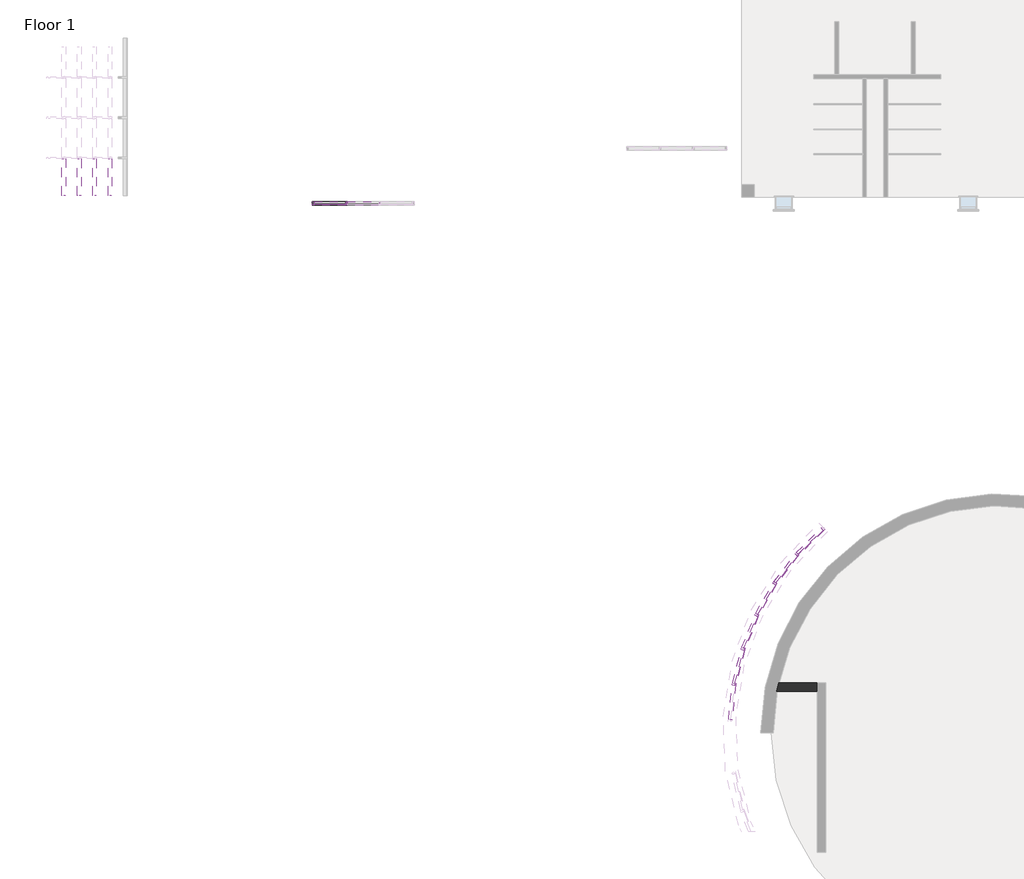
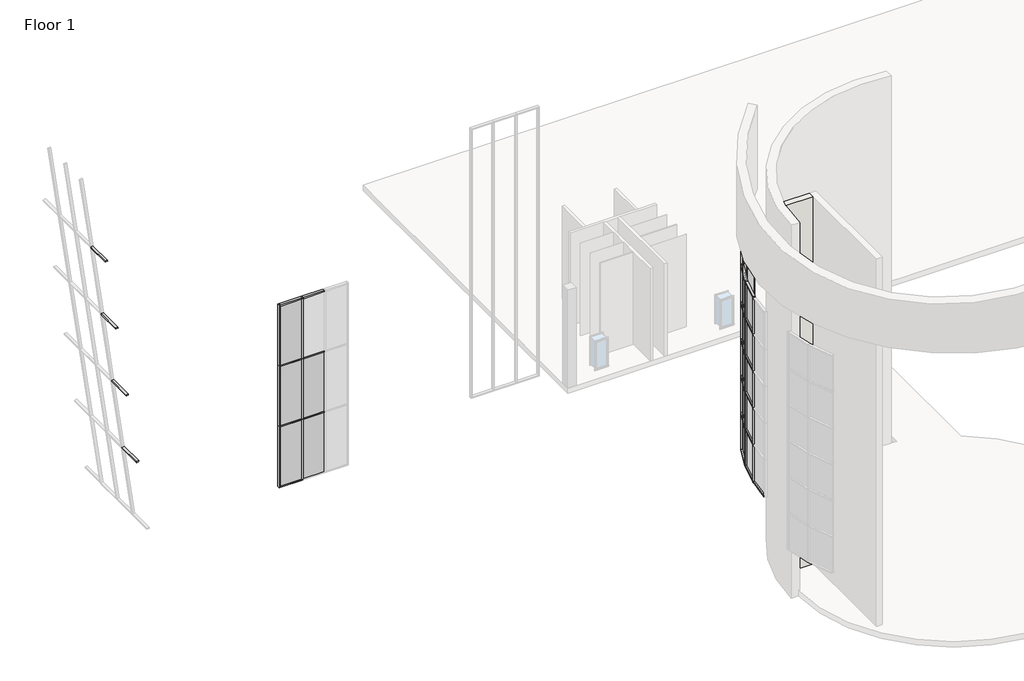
# One storey, part 2 of 11: 78 members, 28 plates, 1 wall.
"""IFC4 building model written with IfcOpenShell, lengths in millimetres."""

from ifc_helpers import new_model, si_unit, point, frame_2d, origin, origin_with_axes, place, context, project, spatial, polyline, circle_curve, trimmed, segment, composite_curve, outline, extrude, transform, mapped, element, save
from components import member_2ae322fc, member_fbb04c12, member_60f38ea1, member_92e61aeb, member_9c235780, member_a50b3385, member_6457a162, member_a397286f, member_08becc7e, member_c609194f, member_b037884b, member_01a4c065, member_349911e8, member_7b18d258, member_74dafc5e, member_9434a11c, system_panel_glazed_5cc509e3, system_panel_glazed_63f175b4, system_panel_glazed_b92d501e

model = new_model("IFC4")

# Units and contexts
model_context = context("Model", 3, world=origin())
ifc_project = project(units=[si_unit("LENGTHUNIT", "METRE", prefix="MILLI")], contexts=[model_context])

# Site, building, storey
site = spatial("IfcSite", under=ifc_project)
building = spatial("IfcBuilding", under=site)
storey = spatial("IfcBuildingStorey", under=building, Name="Floor 1", Elevation=0.0)

# Members
placement = place(None, origin())
member_shape = member_2ae322fc(model_context)
element("IfcMember", 1, ObjectType="Rectangular Mullion1 : 2.5\" x 5\" rectangular", at=placement, inside=storey, context=model_context, shape_type="MappedRepresentation", body=[
    mapped(member_shape, transform((-58.879377, 26659.808796, 5486.4), x_axis=(0.0, 0.0, -1.0), y_axis=(-0.7036879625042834, 0.7105091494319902, 0.0), z_axis=(0.7105091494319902, 0.7036879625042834, 0.0))),
])
member_2_shape = member_fbb04c12(model_context)
element("IfcMember", 2, ObjectType="Rectangular Mullion1 : 2.5\" x 5\" rectangular", at=placement, inside=storey, context=model_context, shape_type="MappedRepresentation", body=[
    mapped(member_2_shape, transform((-946.4907238, 25780.7188917, 15849.6), x_axis=(0.0, 0.0, 1.0), y_axis=(-0.7036879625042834, 0.7105091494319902, 0.0), z_axis=(-0.7105091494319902, -0.7036879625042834, 0.0))),
])
member_3_shape = member_60f38ea1(model_context)
element("IfcMember", 3, ObjectType="Rectangular Mullion1 : 2.5\" x 5\" rectangular", at=placement, inside=storey, context=model_context, shape_type="MappedRepresentation", body=[
    mapped(member_3_shape, transform((-1747.7971728, 24741.2529315, 15849.6), x_axis=(0.0, 0.0, 1.0), y_axis=(-0.7940009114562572, 0.607916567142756, 0.0), z_axis=(-0.6079165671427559, -0.7940009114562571, 0.0))),
])
element("IfcMember", 4, ObjectType="Rectangular Mullion1 : 2.5\" x 5\" rectangular", at=placement, inside=storey, context=model_context, shape_type="MappedRepresentation", body=[
    mapped(member_3_shape, transform((-2401.6981744, 23603.2665357, 15849.6), x_axis=(0.0, 0.0, 1.0), y_axis=(-0.8686708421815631, 0.49538971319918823, 0.0), z_axis=(-0.4953897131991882, -0.868670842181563, 0.0))),
])
element("IfcMember", 5, ObjectType="Rectangular Mullion1 : 2.5\" x 5\" rectangular", at=placement, inside=storey, context=model_context, shape_type="MappedRepresentation", body=[
    mapped(member_3_shape, transform((-2896.304556, 22387.5510738, 15849.6), x_axis=(0.0, 0.0, 1.0), y_axis=(-0.9274980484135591, 0.37382799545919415, 0.0), z_axis=(-0.3738279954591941, -0.927498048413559, 0.0))),
])
element("IfcMember", 6, ObjectType="Rectangular Mullion1 : 2.5\" x 5\" rectangular", at=placement, inside=storey, context=model_context, shape_type="MappedRepresentation", body=[
    mapped(member_3_shape, transform((-3222.5957401, 21116.2786325, 15849.6), x_axis=(0.0, 0.0, 1.0), y_axis=(-0.9694096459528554, 0.24544844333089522, 0.0), z_axis=(-0.2454484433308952, -0.9694096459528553, 0.0))),
])
element("IfcMember", 7, ObjectType="Rectangular Mullion1 : 2.5\" x 5\" rectangular", at=placement, inside=storey, context=model_context, shape_type="MappedRepresentation", body=[
    mapped(member_3_shape, transform((-988.3507403, 25733.16727, 5486.4), x_axis=(0.0, 0.0, -1.0), y_axis=(-0.7940009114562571, 0.6079165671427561, 0.0), z_axis=(0.6079165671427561, 0.7940009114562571, 0.0))),
])
element("IfcMember", 8, ObjectType="Rectangular Mullion1 : 2.5\" x 5\" rectangular", at=placement, inside=storey, context=model_context, shape_type="MappedRepresentation", body=[
    mapped(member_3_shape, transform((-1782.8271472, 24688.4631033, 5486.4), x_axis=(0.0, 0.0, -1.0), y_axis=(-0.8686708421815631, 0.4953897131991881, 0.0), z_axis=(0.4953897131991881, 0.8686708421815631, 0.0))),
])
element("IfcMember", 9, ObjectType="Rectangular Mullion1 : 2.5\" x 5\" rectangular", at=placement, inside=storey, context=model_context, shape_type="MappedRepresentation", body=[
    mapped(member_3_shape, transform((-2429.2958366, 23546.2381734, 5486.4), x_axis=(0.0, 0.0, -1.0), y_axis=(-0.9274980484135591, 0.37382799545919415, 0.0), z_axis=(0.37382799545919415, 0.9274980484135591, 0.0))),
])
element("IfcMember", 10, ObjectType="Rectangular Mullion1 : 2.5\" x 5\" rectangular", at=placement, inside=storey, context=model_context, shape_type="MappedRepresentation", body=[
    mapped(member_3_shape, transform((-2915.9665829, 22327.3242545, 5486.4), x_axis=(0.0, 0.0, -1.0), y_axis=(-0.9694096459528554, 0.24544844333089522, 0.0), z_axis=(0.2454484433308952, 0.9694096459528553, 0.0))),
])
member_4_shape = member_92e61aeb(model_context)
element("IfcMember", 11, ObjectType="Rectangular Mullion1 : 2.5\" x 5\" rectangular", at=placement, inside=storey, context=model_context, shape_type="MappedRepresentation", body=[
    mapped(member_4_shape, transform((-946.4907238, 25780.7188917, 7578.09), x_axis=(0.0, 0.0, 1.0), y_axis=(-0.7036879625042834, 0.7105091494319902, 0.0), z_axis=(-0.7105091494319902, -0.7036879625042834, 0.0))),
])
member_5_shape = member_9c235780(model_context)
element("IfcMember", 12, ObjectType="Rectangular Mullion1 : 2.5\" x 5\" rectangular", at=placement, inside=storey, context=model_context, shape_type="MappedRepresentation", body=[
    mapped(member_5_shape, transform((-1747.7971728, 24741.2529315, 7578.09), x_axis=(0.0, 0.0, 1.0), y_axis=(-0.7940009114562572, 0.607916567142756, 0.0), z_axis=(-0.607916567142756, -0.7940009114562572, 0.0))),
])
element("IfcMember", 13, ObjectType="Rectangular Mullion1 : 2.5\" x 5\" rectangular", at=placement, inside=storey, context=model_context, shape_type="MappedRepresentation", body=[
    mapped(member_5_shape, transform((-2401.6981744, 23603.2665357, 7578.09), x_axis=(0.0, 0.0, 1.0), y_axis=(-0.8686708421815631, 0.4953897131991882, 0.0), z_axis=(-0.4953897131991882, -0.8686708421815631, 0.0))),
])
element("IfcMember", 14, ObjectType="Rectangular Mullion1 : 2.5\" x 5\" rectangular", at=placement, inside=storey, context=model_context, shape_type="MappedRepresentation", body=[
    mapped(member_5_shape, transform((-2896.304556, 22387.5510738, 7578.09), x_axis=(0.0, 0.0, 1.0), y_axis=(-0.9274980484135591, 0.37382799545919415, 0.0), z_axis=(-0.37382799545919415, -0.9274980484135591, 0.0))),
])
element("IfcMember", 15, ObjectType="Rectangular Mullion1 : 2.5\" x 5\" rectangular", at=placement, inside=storey, context=model_context, shape_type="MappedRepresentation", body=[
    mapped(member_5_shape, transform((-3222.5957401, 21116.2786325, 7578.09), x_axis=(0.0, 0.0, 1.0), y_axis=(-0.9694096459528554, 0.24544844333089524, 0.0), z_axis=(-0.24544844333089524, -0.9694096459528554, 0.0))),
])
element("IfcMember", 16, ObjectType="Rectangular Mullion1 : 2.5\" x 5\" rectangular", at=placement, inside=storey, context=model_context, shape_type="MappedRepresentation", body=[
    mapped(member_4_shape, transform((-946.4907238, 25780.7188917, 9638.03), x_axis=(0.0, 0.0, 1.0), y_axis=(-0.7036879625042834, 0.7105091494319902, 0.0), z_axis=(-0.7105091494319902, -0.7036879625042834, 0.0))),
])
element("IfcMember", 17, ObjectType="Rectangular Mullion1 : 2.5\" x 5\" rectangular", at=placement, inside=storey, context=model_context, shape_type="MappedRepresentation", body=[
    mapped(member_4_shape, transform((-946.4907238, 25780.7188917, 11697.97), x_axis=(0.0, 0.0, 1.0), y_axis=(-0.7036879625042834, 0.7105091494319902, 0.0), z_axis=(-0.7105091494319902, -0.7036879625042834, 0.0))),
])
element("IfcMember", 18, ObjectType="Rectangular Mullion1 : 2.5\" x 5\" rectangular", at=placement, inside=storey, context=model_context, shape_type="MappedRepresentation", body=[
    mapped(member_5_shape, transform((-1747.7971728, 24741.2529315, 9638.03), x_axis=(0.0, 0.0, 1.0), y_axis=(-0.7940009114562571, 0.6079165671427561, 0.0), z_axis=(-0.6079165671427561, -0.7940009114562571, 0.0))),
])
element("IfcMember", 19, ObjectType="Rectangular Mullion1 : 2.5\" x 5\" rectangular", at=placement, inside=storey, context=model_context, shape_type="MappedRepresentation", body=[
    mapped(member_5_shape, transform((-2401.6981744, 23603.2665357, 9638.03), x_axis=(0.0, 0.0, 1.0), y_axis=(-0.8686708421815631, 0.4953897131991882, 0.0), z_axis=(-0.4953897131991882, -0.8686708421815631, 0.0))),
])
element("IfcMember", 20, ObjectType="Rectangular Mullion1 : 2.5\" x 5\" rectangular", at=placement, inside=storey, context=model_context, shape_type="MappedRepresentation", body=[
    mapped(member_5_shape, transform((-2896.304556, 22387.5510738, 9638.03), x_axis=(0.0, 0.0, 1.0), y_axis=(-0.9274980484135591, 0.3738279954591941, 0.0), z_axis=(-0.3738279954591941, -0.9274980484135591, 0.0))),
])
element("IfcMember", 21, ObjectType="Rectangular Mullion1 : 2.5\" x 5\" rectangular", at=placement, inside=storey, context=model_context, shape_type="MappedRepresentation", body=[
    mapped(member_5_shape, transform((-3222.5957401, 21116.2786325, 9638.03), x_axis=(0.0, 0.0, 1.0), y_axis=(-0.9694096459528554, 0.24544844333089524, 0.0), z_axis=(-0.24544844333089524, -0.9694096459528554, 0.0))),
])
element("IfcMember", 22, ObjectType="Rectangular Mullion1 : 2.5\" x 5\" rectangular", at=placement, inside=storey, context=model_context, shape_type="MappedRepresentation", body=[
    mapped(member_5_shape, transform((-1747.7971728, 24741.2529315, 11697.97), x_axis=(0.0, 0.0, 1.0), y_axis=(-0.7940009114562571, 0.6079165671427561, 0.0), z_axis=(-0.6079165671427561, -0.7940009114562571, 0.0))),
])
element("IfcMember", 23, ObjectType="Rectangular Mullion1 : 2.5\" x 5\" rectangular", at=placement, inside=storey, context=model_context, shape_type="MappedRepresentation", body=[
    mapped(member_5_shape, transform((-2401.6981744, 23603.2665357, 11697.97), x_axis=(0.0, 0.0, 1.0), y_axis=(-0.8686708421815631, 0.4953897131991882, 0.0), z_axis=(-0.4953897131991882, -0.8686708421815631, 0.0))),
])
element("IfcMember", 24, ObjectType="Rectangular Mullion1 : 2.5\" x 5\" rectangular", at=placement, inside=storey, context=model_context, shape_type="MappedRepresentation", body=[
    mapped(member_5_shape, transform((-2896.304556, 22387.5510738, 11697.97), x_axis=(0.0, 0.0, 1.0), y_axis=(-0.9274980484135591, 0.3738279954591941, 0.0), z_axis=(-0.3738279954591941, -0.9274980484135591, 0.0))),
])
element("IfcMember", 25, ObjectType="Rectangular Mullion1 : 2.5\" x 5\" rectangular", at=placement, inside=storey, context=model_context, shape_type="MappedRepresentation", body=[
    mapped(member_5_shape, transform((-3222.5957401, 21116.2786325, 11697.97), x_axis=(0.0, 0.0, 1.0), y_axis=(-0.9694096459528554, 0.24544844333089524, 0.0), z_axis=(-0.24544844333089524, -0.9694096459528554, 0.0))),
])
element("IfcMember", 26, ObjectType="Rectangular Mullion1 : 2.5\" x 5\" rectangular", at=placement, inside=storey, context=model_context, shape_type="MappedRepresentation", body=[
    mapped(member_4_shape, transform((-946.4907238, 25780.7188917, 13757.91), x_axis=(0.0, 0.0, 1.0), y_axis=(-0.7036879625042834, 0.7105091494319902, 0.0), z_axis=(-0.7105091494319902, -0.7036879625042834, 0.0))),
])
element("IfcMember", 27, ObjectType="Rectangular Mullion1 : 2.5\" x 5\" rectangular", at=placement, inside=storey, context=model_context, shape_type="MappedRepresentation", body=[
    mapped(member_5_shape, transform((-1747.7971728, 24741.2529315, 13757.91), x_axis=(0.0, 0.0, 1.0), y_axis=(-0.7940009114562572, 0.607916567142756, 0.0), z_axis=(-0.607916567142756, -0.7940009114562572, 0.0))),
])
element("IfcMember", 28, ObjectType="Rectangular Mullion1 : 2.5\" x 5\" rectangular", at=placement, inside=storey, context=model_context, shape_type="MappedRepresentation", body=[
    mapped(member_5_shape, transform((-2401.6981744, 23603.2665357, 13757.91), x_axis=(0.0, 0.0, 1.0), y_axis=(-0.8686708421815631, 0.4953897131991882, 0.0), z_axis=(-0.4953897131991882, -0.8686708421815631, 0.0))),
])
element("IfcMember", 29, ObjectType="Rectangular Mullion1 : 2.5\" x 5\" rectangular", at=placement, inside=storey, context=model_context, shape_type="MappedRepresentation", body=[
    mapped(member_5_shape, transform((-2896.304556, 22387.5510738, 13757.91), x_axis=(0.0, 0.0, 1.0), y_axis=(-0.9274980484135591, 0.3738279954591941, 0.0), z_axis=(-0.3738279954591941, -0.9274980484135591, 0.0))),
])
element("IfcMember", 30, ObjectType="Rectangular Mullion1 : 2.5\" x 5\" rectangular", at=placement, inside=storey, context=model_context, shape_type="MappedRepresentation", body=[
    mapped(member_5_shape, transform((-3222.5957401, 21116.2786325, 13757.91), x_axis=(0.0, 0.0, 1.0), y_axis=(-0.9694096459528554, 0.24544844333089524, 0.0), z_axis=(-0.24544844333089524, -0.9694096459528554, 0.0))),
])
member_6_shape = member_a50b3385(model_context)
element("IfcMember", 31, ObjectType="Rectangular Mullion1 : 2.5\" x 5\" rectangular", at=placement, inside=storey, context=model_context, shape_type="MappedRepresentation", body=[
    mapped(member_6_shape, transform((-969.0493893, 25758.3767989, 5486.4), x_axis=(-0.6601431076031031, -0.7511398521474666, 0.0), y_axis=(-0.7511398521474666, 0.6601431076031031, 0.0), z_axis=(0.0, 0.0, -1.0))),
])
element("IfcMember", 32, ObjectType="Rectangular Mullion1 : 2.5\" x 5\" rectangular", at=placement, inside=storey, context=model_context, shape_type="MappedRepresentation", body=[
    mapped(member_6_shape, transform((-1767.0985238, 24716.0434025, 5486.4), x_axis=(-0.5529150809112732, -0.8332376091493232, 0.0), y_axis=(-0.8332376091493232, 0.5529150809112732, 0.0), z_axis=(0.0, 0.0, -1.0))),
])
element("IfcMember", 33, ObjectType="Rectangular Mullion1 : 2.5\" x 5\" rectangular", at=placement, inside=storey, context=model_context, shape_type="MappedRepresentation", body=[
    mapped(member_6_shape, transform((-2417.4267977, 23575.6862364, 5486.4), x_axis=(-0.43560304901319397, -0.9001388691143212, 0.0), y_axis=(-0.9001388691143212, 0.43560304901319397, 0.0), z_axis=(0.0, 0.0, -1.0))),
])
element("IfcMember", 34, ObjectType="Rectangular Mullion1 : 2.5\" x 5\" rectangular", at=placement, inside=storey, context=model_context, shape_type="MappedRepresentation", body=[
    mapped(member_6_shape, transform((-2908.1735948, 22358.1030108, 5486.4), x_axis=(-0.3103465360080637, -0.9506234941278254, 0.0), y_axis=(-0.9506234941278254, 0.3103465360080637, 0.0), z_axis=(0.0, 0.0, -1.0))),
])
element("IfcMember", 35, ObjectType="Rectangular Mullion1 : 2.5\" x 5\" rectangular", at=placement, inside=storey, context=model_context, shape_type="MappedRepresentation", body=[
    mapped(member_6_shape, transform((-3230.3887282, 21085.4998763, 5486.4), x_axis=(-0.17942995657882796, -0.9837707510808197, 0.0), y_axis=(-0.9837707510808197, 0.17942995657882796, 0.0), z_axis=(0.0, 0.0, -1.0))),
])
member_7_shape = member_6457a162(model_context)
element("IfcMember", 36, ObjectType="Rectangular Mullion1 : 2.5\" x 5\" rectangular", at=placement, inside=storey, context=model_context, shape_type="MappedRepresentation", body=[
    mapped(member_7_shape, transform((-969.0493893, 25758.3767989, 7578.09), x_axis=(-0.6601431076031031, -0.7511398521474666, 0.0), y_axis=(-0.7511398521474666, 0.6601431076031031, 0.0), z_axis=(0.0, 0.0, -1.0))),
])
element("IfcMember", 37, ObjectType="Rectangular Mullion1 : 2.5\" x 5\" rectangular", at=placement, inside=storey, context=model_context, shape_type="MappedRepresentation", body=[
    mapped(member_7_shape, transform((-1767.0985238, 24716.0434025, 7578.09), x_axis=(-0.5529150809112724, -0.8332376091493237, 0.0), y_axis=(-0.8332376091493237, 0.5529150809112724, 0.0), z_axis=(0.0, 0.0, -1.0))),
])
element("IfcMember", 38, ObjectType="Rectangular Mullion1 : 2.5\" x 5\" rectangular", at=placement, inside=storey, context=model_context, shape_type="MappedRepresentation", body=[
    mapped(member_7_shape, transform((-2417.4267977, 23575.6862364, 7578.09), x_axis=(-0.43560304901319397, -0.9001388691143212, 0.0), y_axis=(-0.9001388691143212, 0.43560304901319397, 0.0), z_axis=(0.0, 0.0, -1.0))),
])
element("IfcMember", 39, ObjectType="Rectangular Mullion1 : 2.5\" x 5\" rectangular", at=placement, inside=storey, context=model_context, shape_type="MappedRepresentation", body=[
    mapped(member_7_shape, transform((-2908.1735948, 22358.1030108, 7578.09), x_axis=(-0.31034653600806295, -0.9506234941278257, 0.0), y_axis=(-0.9506234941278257, 0.31034653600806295, 0.0), z_axis=(0.0, 0.0, -1.0))),
])
element("IfcMember", 40, ObjectType="Rectangular Mullion1 : 2.5\" x 5\" rectangular", at=placement, inside=storey, context=model_context, shape_type="MappedRepresentation", body=[
    mapped(member_7_shape, transform((-969.0493893, 25758.3767989, 9638.03), x_axis=(-0.6601431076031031, -0.7511398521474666, 0.0), y_axis=(-0.7511398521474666, 0.6601431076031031, 0.0), z_axis=(0.0, 0.0, -1.0))),
])
element("IfcMember", 41, ObjectType="Rectangular Mullion1 : 2.5\" x 5\" rectangular", at=placement, inside=storey, context=model_context, shape_type="MappedRepresentation", body=[
    mapped(member_7_shape, transform((-1767.0985238, 24716.0434025, 9638.03), x_axis=(-0.5529150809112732, -0.8332376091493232, 0.0), y_axis=(-0.8332376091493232, 0.5529150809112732, 0.0), z_axis=(0.0, 0.0, -1.0))),
])
element("IfcMember", 42, ObjectType="Rectangular Mullion1 : 2.5\" x 5\" rectangular", at=placement, inside=storey, context=model_context, shape_type="MappedRepresentation", body=[
    mapped(member_7_shape, transform((-2417.4267977, 23575.6862364, 9638.03), x_axis=(-0.4356030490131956, -0.9001388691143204, 0.0), y_axis=(-0.9001388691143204, 0.4356030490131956, 0.0), z_axis=(0.0, 0.0, -1.0))),
])
element("IfcMember", 43, ObjectType="Rectangular Mullion1 : 2.5\" x 5\" rectangular", at=placement, inside=storey, context=model_context, shape_type="MappedRepresentation", body=[
    mapped(member_7_shape, transform((-2908.1735948, 22358.1030108, 9638.03), x_axis=(-0.31034653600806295, -0.9506234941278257, 0.0), y_axis=(-0.9506234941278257, 0.31034653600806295, 0.0), z_axis=(0.0, 0.0, -1.0))),
])
element("IfcMember", 44, ObjectType="Rectangular Mullion1 : 2.5\" x 5\" rectangular", at=placement, inside=storey, context=model_context, shape_type="MappedRepresentation", body=[
    mapped(member_7_shape, transform((-969.0493893, 25758.3767989, 11697.97), x_axis=(-0.6601431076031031, -0.7511398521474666, 0.0), y_axis=(-0.7511398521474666, 0.6601431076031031, 0.0), z_axis=(0.0, 0.0, -1.0))),
])
element("IfcMember", 45, ObjectType="Rectangular Mullion1 : 2.5\" x 5\" rectangular", at=placement, inside=storey, context=model_context, shape_type="MappedRepresentation", body=[
    mapped(member_7_shape, transform((-1767.0985238, 24716.0434025, 11697.97), x_axis=(-0.5529150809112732, -0.8332376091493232, 0.0), y_axis=(-0.8332376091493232, 0.5529150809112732, 0.0), z_axis=(0.0, 0.0, -1.0))),
])
element("IfcMember", 46, ObjectType="Rectangular Mullion1 : 2.5\" x 5\" rectangular", at=placement, inside=storey, context=model_context, shape_type="MappedRepresentation", body=[
    mapped(member_7_shape, transform((-2417.4267977, 23575.6862364, 11697.97), x_axis=(-0.4356030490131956, -0.9001388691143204, 0.0), y_axis=(-0.9001388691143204, 0.4356030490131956, 0.0), z_axis=(0.0, 0.0, -1.0))),
])
element("IfcMember", 47, ObjectType="Rectangular Mullion1 : 2.5\" x 5\" rectangular", at=placement, inside=storey, context=model_context, shape_type="MappedRepresentation", body=[
    mapped(member_7_shape, transform((-2908.1735948, 22358.1030108, 11697.97), x_axis=(-0.31034653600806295, -0.9506234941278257, 0.0), y_axis=(-0.9506234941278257, 0.31034653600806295, 0.0), z_axis=(0.0, 0.0, -1.0))),
])
element("IfcMember", 48, ObjectType="Rectangular Mullion1 : 2.5\" x 5\" rectangular", at=placement, inside=storey, context=model_context, shape_type="MappedRepresentation", body=[
    mapped(member_7_shape, transform((-3230.3887282, 21085.4998763, 7578.09), x_axis=(-0.17942995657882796, -0.9837707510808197, 0.0), y_axis=(-0.9837707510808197, 0.17942995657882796, 0.0), z_axis=(0.0, 0.0, -1.0))),
])
element("IfcMember", 49, ObjectType="Rectangular Mullion1 : 2.5\" x 5\" rectangular", at=placement, inside=storey, context=model_context, shape_type="MappedRepresentation", body=[
    mapped(member_7_shape, transform((-3230.3887282, 21085.4998763, 9638.03), x_axis=(-0.1794299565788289, -0.9837707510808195, 0.0), y_axis=(-0.9837707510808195, 0.1794299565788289, 0.0), z_axis=(0.0, 0.0, -1.0))),
])
element("IfcMember", 50, ObjectType="Rectangular Mullion1 : 2.5\" x 5\" rectangular", at=placement, inside=storey, context=model_context, shape_type="MappedRepresentation", body=[
    mapped(member_7_shape, transform((-3230.3887282, 21085.4998763, 11697.97), x_axis=(-0.1794299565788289, -0.9837707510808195, 0.0), y_axis=(-0.9837707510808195, 0.1794299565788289, 0.0), z_axis=(0.0, 0.0, -1.0))),
])
element("IfcMember", 51, ObjectType="Rectangular Mullion1 : 2.5\" x 5\" rectangular", at=placement, inside=storey, context=model_context, shape_type="MappedRepresentation", body=[
    mapped(member_6_shape, transform((-969.0493893, 25758.3767989, 13757.91), x_axis=(-0.6601431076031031, -0.7511398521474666, 0.0), y_axis=(-0.7511398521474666, 0.6601431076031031, 0.0), z_axis=(0.0, 0.0, -1.0))),
])
element("IfcMember", 52, ObjectType="Rectangular Mullion1 : 2.5\" x 5\" rectangular", at=placement, inside=storey, context=model_context, shape_type="MappedRepresentation", body=[
    mapped(member_6_shape, transform((-1767.0985238, 24716.0434025, 13757.91), x_axis=(-0.5529150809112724, -0.8332376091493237, 0.0), y_axis=(-0.8332376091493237, 0.5529150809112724, 0.0), z_axis=(0.0, 0.0, -1.0))),
])
element("IfcMember", 53, ObjectType="Rectangular Mullion1 : 2.5\" x 5\" rectangular", at=placement, inside=storey, context=model_context, shape_type="MappedRepresentation", body=[
    mapped(member_6_shape, transform((-2417.4267977, 23575.6862364, 13757.91), x_axis=(-0.4356030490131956, -0.9001388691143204, 0.0), y_axis=(-0.9001388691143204, 0.4356030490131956, 0.0), z_axis=(0.0, 0.0, -1.0))),
])
element("IfcMember", 54, ObjectType="Rectangular Mullion1 : 2.5\" x 5\" rectangular", at=placement, inside=storey, context=model_context, shape_type="MappedRepresentation", body=[
    mapped(member_6_shape, transform((-2908.1735948, 22358.1030108, 13757.91), x_axis=(-0.31034653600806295, -0.9506234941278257, 0.0), y_axis=(-0.9506234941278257, 0.31034653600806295, 0.0), z_axis=(0.0, 0.0, -1.0))),
])
element("IfcMember", 55, ObjectType="Rectangular Mullion1 : 2.5\" x 5\" rectangular", at=placement, inside=storey, context=model_context, shape_type="MappedRepresentation", body=[
    mapped(member_6_shape, transform((-3230.3887282, 21085.4998763, 13757.91), x_axis=(-0.1794299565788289, -0.9837707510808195, 0.0), y_axis=(-0.9837707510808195, 0.1794299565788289, 0.0), z_axis=(0.0, 0.0, -1.0))),
])
element("IfcMember", 56, ObjectType="Rectangular Mullion1 : 2.5\" x 5\" rectangular", at=placement, inside=storey, context=model_context, shape_type="MappedRepresentation", body=[
    mapped(member_2_shape, transform((-3233.9118907, 21053.9459569, 5486.4), x_axis=(0.0, 0.0, -1.0), y_axis=(-0.9938242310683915, 0.11096575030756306, 0.0), z_axis=(0.11096575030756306, 0.9938242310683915, 0.0))),
])
member_8_shape = member_a397286f(model_context)
element("IfcMember", 57, ObjectType="Rectangular Mullion1 : 2.5\" x 5\" rectangular", at=placement, inside=storey, context=model_context, shape_type="MappedRepresentation", body=[
    mapped(member_8_shape, transform((-13.762046, 26704.4929816, 15849.6), x_axis=(0.7105091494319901, 0.7036879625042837, 0.0), y_axis=(-0.7036879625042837, 0.7105091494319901, 0.0), z_axis=(0.0, 0.0, 1.0))),
])
element("IfcMember", 58, ObjectType="Rectangular Mullion1 : 2.5\" x 5\" rectangular", at=placement, inside=storey, context=model_context, shape_type="MappedRepresentation", body=[
    mapped(member_8_shape, transform((-13.762046, 26704.4929816, 7578.09), x_axis=(0.7105091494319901, 0.7036879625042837, 0.0), y_axis=(-0.7036879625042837, 0.7105091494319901, 0.0), z_axis=(0.0, 0.0, 1.0))),
])
member_9_shape = member_08becc7e(model_context)
element("IfcMember", 59, ObjectType="Rectangular Mullion1 : 2.5\" x 5\" rectangular", at=placement, inside=storey, context=model_context, shape_type="MappedRepresentation", body=[
    mapped(member_9_shape, transform((-13.762046, 26704.4929816, 9638.03), x_axis=(0.7105091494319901, 0.7036879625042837, 0.0), y_axis=(-0.7036879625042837, 0.7105091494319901, 0.0), z_axis=(0.0, 0.0, 1.0))),
])
element("IfcMember", 60, ObjectType="Rectangular Mullion1 : 2.5\" x 5\" rectangular", at=placement, inside=storey, context=model_context, shape_type="MappedRepresentation", body=[
    mapped(member_9_shape, transform((-13.762046, 26704.4929816, 11697.97), x_axis=(0.7105091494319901, 0.7036879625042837, 0.0), y_axis=(-0.7036879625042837, 0.7105091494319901, 0.0), z_axis=(0.0, 0.0, 1.0))),
])
element("IfcMember", 61, ObjectType="Rectangular Mullion1 : 2.5\" x 5\" rectangular", at=placement, inside=storey, context=model_context, shape_type="MappedRepresentation", body=[
    mapped(member_9_shape, transform((-13.762046, 26704.4929816, 13757.91), x_axis=(0.7105091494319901, 0.7036879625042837, 0.0), y_axis=(-0.7036879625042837, 0.7105091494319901, 0.0), z_axis=(0.0, 0.0, 1.0))),
])
member_10_shape = member_c609194f(model_context)
element("IfcMember", 62, ObjectType="Rectangular Mullion1 : 2.5\" x 5\" rectangular", at=placement, inside=storey, context=model_context, shape_type="MappedRepresentation", body=[
    mapped(member_10_shape, transform((-25693.3790742, 38681.824389, 3810.4039622), x_axis=(-0.13917310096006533, 0.0, 0.9902680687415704), y_axis=(-0.9902680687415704, 0.0, -0.13917310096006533), z_axis=(0.0, -1.0, 0.0))),
])
element("IfcMember", 63, ObjectType="Rectangular Mullion1 : 2.5\" x 5\" rectangular", at=placement, inside=storey, context=model_context, shape_type="MappedRepresentation", body=[
    mapped(member_10_shape, transform((-26246.1445106, 38681.824389, 7743.5344115), x_axis=(-0.13917310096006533, 0.0, 0.9902680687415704), y_axis=(-0.9902680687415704, 0.0, -0.13917310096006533), z_axis=(0.0, -1.0, 0.0))),
])
element("IfcMember", 64, ObjectType="Rectangular Mullion1 : 2.5\" x 5\" rectangular", at=placement, inside=storey, context=model_context, shape_type="MappedRepresentation", body=[
    mapped(member_10_shape, transform((-26798.9099469, 38681.824389, 11676.6648609), x_axis=(-0.13917310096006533, 0.0, 0.9902680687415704), y_axis=(-0.9902680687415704, 0.0, -0.13917310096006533), z_axis=(0.0, -1.0, 0.0))),
])
element("IfcMember", 65, ObjectType="Rectangular Mullion1 : 2.5\" x 5\" rectangular", at=placement, inside=storey, context=model_context, shape_type="MappedRepresentation", body=[
    mapped(member_10_shape, transform((-27351.6753833, 38681.824389, 15609.7953102), x_axis=(-0.13917310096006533, 0.0, 0.9902680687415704), y_axis=(-0.9902680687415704, 0.0, -0.13917310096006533), z_axis=(0.0, -1.0, 0.0))),
])
member_11_shape = member_b037884b(model_context)
element("IfcMember", 66, ObjectType="Rectangular Mullion1 : 2.5\" x 5\" rectangular", at=placement, inside=storey, context=model_context, shape_type="MappedRepresentation", body=[
    mapped(member_11_shape, transform((-18341.9432976, 38391.311889, 10210.8), x_axis=(0.0, 0.0, 1.0), y_axis=(0.0, 1.0, 0.0), z_axis=(-1.0, 0.0, 0.0))),
])
element("IfcMember", 67, ObjectType="Rectangular Mullion1 : 2.5\" x 5\" rectangular", at=placement, inside=storey, context=model_context, shape_type="MappedRepresentation", body=[
    mapped(member_11_shape, transform((-17143.9099642, 38391.311889, 10210.8), x_axis=(0.0, 0.0, 1.0), y_axis=(0.0, 1.0, 0.0), z_axis=(-1.0, 0.0, 0.0))),
])
element("IfcMember", 68, ObjectType="Rectangular Mullion1 : 2.5\" x 5\" rectangular", at=placement, inside=storey, context=model_context, shape_type="MappedRepresentation", body=[
    mapped(member_11_shape, transform((-17207.4099642, 38391.311889, 0.0), x_axis=(0.0, 0.0, -1.0), y_axis=(0.0, 1.0, 0.0), z_axis=(1.0, 0.0, 0.0))),
])
member_12_shape = member_01a4c065(model_context)
element("IfcMember", 69, ObjectType="Rectangular Mullion1 : 2.5\" x 5\" rectangular", at=placement, inside=storey, context=model_context, shape_type="MappedRepresentation", body=[
    mapped(member_12_shape, transform((-17143.9099642, 38391.311889, 3414.1833333), x_axis=(0.0, 0.0, 1.0), y_axis=(0.0, 1.0, 0.0), z_axis=(-1.0, 0.0, 0.0))),
])
element("IfcMember", 70, ObjectType="Rectangular Mullion1 : 2.5\" x 5\" rectangular", at=placement, inside=storey, context=model_context, shape_type="MappedRepresentation", body=[
    mapped(member_12_shape, transform((-18341.9432976, 38391.311889, 3414.1833333), x_axis=(0.0, 0.0, 1.0), y_axis=(0.0, 1.0, 0.0), z_axis=(-1.0, 0.0, 0.0))),
])
element("IfcMember", 71, ObjectType="Rectangular Mullion1 : 2.5\" x 5\" rectangular", at=placement, inside=storey, context=model_context, shape_type="MappedRepresentation", body=[
    mapped(member_12_shape, transform((-17143.9099642, 38391.311889, 6796.6166667), x_axis=(0.0, 0.0, 1.0), y_axis=(0.0, 1.0, 0.0), z_axis=(-1.0, 0.0, 0.0))),
])
element("IfcMember", 72, ObjectType="Rectangular Mullion1 : 2.5\" x 5\" rectangular", at=placement, inside=storey, context=model_context, shape_type="MappedRepresentation", body=[
    mapped(member_12_shape, transform((-18341.9432976, 38391.311889, 6796.6166667), x_axis=(0.0, 0.0, 1.0), y_axis=(0.0, 1.0, 0.0), z_axis=(-1.0, 0.0, 0.0))),
])
member_13_shape = member_349911e8(model_context)
element("IfcMember", 73, ObjectType="Rectangular Mullion1 : 2.5\" x 5\" rectangular", at=placement, inside=storey, context=model_context, shape_type="MappedRepresentation", body=[
    mapped(member_13_shape, transform((-17175.6599642, 38391.311889, 0.0), x_axis=(-1.0, 0.0, 0.0), y_axis=(0.0, 1.0, 0.0), z_axis=(0.0, 0.0, -1.0))),
])
member_14_shape = member_7b18d258(model_context)
element("IfcMember", 74, ObjectType="Rectangular Mullion1 : 2.5\" x 5\" rectangular", at=placement, inside=storey, context=model_context, shape_type="MappedRepresentation", body=[
    mapped(member_14_shape, transform((-17175.6599642, 38391.311889, 3414.1833333), x_axis=(-1.0, 0.0, 0.0), y_axis=(0.0, 1.0, 0.0), z_axis=(0.0, 0.0, -1.0))),
])
element("IfcMember", 75, ObjectType="Rectangular Mullion1 : 2.5\" x 5\" rectangular", at=placement, inside=storey, context=model_context, shape_type="MappedRepresentation", body=[
    mapped(member_13_shape, transform((-17175.6599642, 38391.311889, 6796.6166667), x_axis=(-1.0, 0.0, 0.0), y_axis=(0.0, 1.0, 0.0), z_axis=(0.0, 0.0, -1.0))),
])
member_15_shape = member_74dafc5e(model_context)
element("IfcMember", 76, ObjectType="Rectangular Mullion1 : 2.5\" x 5\" rectangular", at=placement, inside=storey, context=model_context, shape_type="MappedRepresentation", body=[
    mapped(member_15_shape, transform((-18405.4432976, 38391.311889, 0.0), x_axis=(-1.0, 0.0, 0.0), y_axis=(0.0, 1.0, 0.0), z_axis=(0.0, 0.0, -1.0))),
])
member_16_shape = member_9434a11c(model_context)
element("IfcMember", 77, ObjectType="Rectangular Mullion1 : 2.5\" x 5\" rectangular", at=placement, inside=storey, context=model_context, shape_type="MappedRepresentation", body=[
    mapped(member_16_shape, transform((-18405.4432976, 38391.311889, 3414.1833333), x_axis=(-1.0, 0.0, 0.0), y_axis=(0.0, 1.0, 0.0), z_axis=(0.0, 0.0, -1.0))),
])
element("IfcMember", 78, ObjectType="Rectangular Mullion1 : 2.5\" x 5\" rectangular", at=placement, inside=storey, context=model_context, shape_type="MappedRepresentation", body=[
    mapped(member_15_shape, transform((-18405.4432976, 38391.311889, 6796.6166667), x_axis=(-1.0, 0.0, 0.0), y_axis=(0.0, 1.0, 0.0), z_axis=(0.0, 0.0, -1.0))),
])

# Plates
system_panel_glazed_shape = system_panel_glazed_5cc509e3(model_context)
element("IfcPlate", 79, ObjectType="System Panel : Glazed", at=placement, inside=storey, context=model_context, shape_type="MappedRepresentation", body=[
    mapped(system_panel_glazed_shape, transform((-502.6850504, 26220.2638439, 5549.9), x_axis=(-0.7105091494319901, -0.7036879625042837, 0.0), y_axis=(0.7036879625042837, -0.7105091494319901, 0.0), z_axis=(0.0, 0.0, 1.0))),
])
element("IfcPlate", 80, ObjectType="System Panel : Glazed", at=placement, inside=storey, context=model_context, shape_type="MappedRepresentation", body=[
    mapped(system_panel_glazed_shape, transform((-502.6850504, 26220.2638439, 7609.84), x_axis=(-0.7105091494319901, -0.7036879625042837, 0.0), y_axis=(0.7036879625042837, -0.7105091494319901, 0.0), z_axis=(0.0, 0.0, 1.0))),
])
element("IfcPlate", 81, ObjectType="System Panel : Glazed", at=placement, inside=storey, context=model_context, shape_type="MappedRepresentation", body=[
    mapped(system_panel_glazed_shape, transform((-502.6850504, 26220.2638439, 9669.78), x_axis=(-0.7105091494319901, -0.7036879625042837, 0.0), y_axis=(0.7036879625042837, -0.7105091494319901, 0.0), z_axis=(0.0, 0.0, 1.0))),
])
element("IfcPlate", 82, ObjectType="System Panel : Glazed", at=placement, inside=storey, context=model_context, shape_type="MappedRepresentation", body=[
    mapped(system_panel_glazed_shape, transform((-502.6850504, 26220.2638439, 11729.72), x_axis=(-0.7105091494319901, -0.7036879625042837, 0.0), y_axis=(0.7036879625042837, -0.7105091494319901, 0.0), z_axis=(0.0, 0.0, 1.0))),
])
element("IfcPlate", 83, ObjectType="System Panel : Glazed", at=placement, inside=storey, context=model_context, shape_type="MappedRepresentation", body=[
    mapped(system_panel_glazed_shape, transform((-502.6850504, 26220.2638439, 13789.66), x_axis=(-0.7105091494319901, -0.7036879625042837, 0.0), y_axis=(0.7036879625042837, -0.7105091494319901, 0.0), z_axis=(0.0, 0.0, 1.0))),
])
system_panel_glazed_2_shape = system_panel_glazed_63f175b4(model_context)
element("IfcPlate", 84, ObjectType="System Panel : Glazed", at=placement, inside=storey, context=model_context, shape_type="MappedRepresentation", body=[
    mapped(system_panel_glazed_2_shape, transform((-1368.0739565, 25237.2101007, 5549.9), x_axis=(-0.607916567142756, -0.7940009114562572, 0.0), y_axis=(0.7940009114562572, -0.607916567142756, 0.0), z_axis=(0.0, 0.0, 1.0))),
])
element("IfcPlate", 85, ObjectType="System Panel : Glazed", at=placement, inside=storey, context=model_context, shape_type="MappedRepresentation", body=[
    mapped(system_panel_glazed_2_shape, transform((-2092.2626608, 24145.8648195, 5549.9), x_axis=(-0.49538971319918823, -0.8686708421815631, 0.0), y_axis=(0.8686708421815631, -0.49538971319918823, 0.0), z_axis=(0.0, 0.0, 1.0))),
])
element("IfcPlate", 86, ObjectType="System Panel : Glazed", at=placement, inside=storey, context=model_context, shape_type="MappedRepresentation", body=[
    mapped(system_panel_glazed_2_shape, transform((-2662.8001963, 22966.8946236, 5549.9), x_axis=(-0.3738279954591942, -0.9274980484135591, 0.0), y_axis=(0.9274980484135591, -0.3738279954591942, 0.0), z_axis=(0.0, 0.0, 1.0))),
])
element("IfcPlate", 87, ObjectType="System Panel : Glazed", at=placement, inside=storey, context=model_context, shape_type="MappedRepresentation", body=[
    mapped(system_panel_glazed_2_shape, transform((-1368.0739565, 25237.2101007, 7609.84), x_axis=(-0.607916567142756, -0.7940009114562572, 0.0), y_axis=(0.7940009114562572, -0.607916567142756, 0.0), z_axis=(0.0, 0.0, 1.0))),
])
element("IfcPlate", 88, ObjectType="System Panel : Glazed", at=placement, inside=storey, context=model_context, shape_type="MappedRepresentation", body=[
    mapped(system_panel_glazed_2_shape, transform((-2092.2626608, 24145.8648195, 7609.84), x_axis=(-0.49538971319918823, -0.8686708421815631, 0.0), y_axis=(0.8686708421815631, -0.49538971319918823, 0.0), z_axis=(0.0, 0.0, 1.0))),
])
element("IfcPlate", 89, ObjectType="System Panel : Glazed", at=placement, inside=storey, context=model_context, shape_type="MappedRepresentation", body=[
    mapped(system_panel_glazed_2_shape, transform((-2662.8001963, 22966.8946236, 7609.84), x_axis=(-0.3738279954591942, -0.9274980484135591, 0.0), y_axis=(0.9274980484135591, -0.3738279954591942, 0.0), z_axis=(0.0, 0.0, 1.0))),
])
element("IfcPlate", 90, ObjectType="System Panel : Glazed", at=placement, inside=storey, context=model_context, shape_type="MappedRepresentation", body=[
    mapped(system_panel_glazed_2_shape, transform((-1368.0739565, 25237.2101007, 9669.78), x_axis=(-0.607916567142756, -0.7940009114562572, 0.0), y_axis=(0.7940009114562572, -0.607916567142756, 0.0), z_axis=(0.0, 0.0, 1.0))),
])
element("IfcPlate", 91, ObjectType="System Panel : Glazed", at=placement, inside=storey, context=model_context, shape_type="MappedRepresentation", body=[
    mapped(system_panel_glazed_2_shape, transform((-2092.2626608, 24145.8648195, 9669.78), x_axis=(-0.49538971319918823, -0.8686708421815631, 0.0), y_axis=(0.8686708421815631, -0.49538971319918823, 0.0), z_axis=(0.0, 0.0, 1.0))),
])
element("IfcPlate", 92, ObjectType="System Panel : Glazed", at=placement, inside=storey, context=model_context, shape_type="MappedRepresentation", body=[
    mapped(system_panel_glazed_2_shape, transform((-2662.8001963, 22966.8946236, 9669.78), x_axis=(-0.3738279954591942, -0.9274980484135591, 0.0), y_axis=(0.9274980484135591, -0.3738279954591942, 0.0), z_axis=(0.0, 0.0, 1.0))),
])
element("IfcPlate", 93, ObjectType="System Panel : Glazed", at=placement, inside=storey, context=model_context, shape_type="MappedRepresentation", body=[
    mapped(system_panel_glazed_2_shape, transform((-3069.2811615, 21721.8014435, 9669.78), x_axis=(-0.2454484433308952, -0.9694096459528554, 0.0), y_axis=(0.9694096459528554, -0.2454484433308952, 0.0), z_axis=(0.0, 0.0, 1.0))),
])
element("IfcPlate", 94, ObjectType="System Panel : Glazed", at=placement, inside=storey, context=model_context, shape_type="MappedRepresentation", body=[
    mapped(system_panel_glazed_2_shape, transform((-1368.0739565, 25237.2101007, 11729.72), x_axis=(-0.607916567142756, -0.7940009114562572, 0.0), y_axis=(0.7940009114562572, -0.607916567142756, 0.0), z_axis=(0.0, 0.0, 1.0))),
])
element("IfcPlate", 95, ObjectType="System Panel : Glazed", at=placement, inside=storey, context=model_context, shape_type="MappedRepresentation", body=[
    mapped(system_panel_glazed_2_shape, transform((-2092.2626608, 24145.8648195, 11729.72), x_axis=(-0.49538971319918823, -0.8686708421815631, 0.0), y_axis=(0.8686708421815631, -0.49538971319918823, 0.0), z_axis=(0.0, 0.0, 1.0))),
])
element("IfcPlate", 96, ObjectType="System Panel : Glazed", at=placement, inside=storey, context=model_context, shape_type="MappedRepresentation", body=[
    mapped(system_panel_glazed_2_shape, transform((-2662.8001963, 22966.8946236, 11729.72), x_axis=(-0.3738279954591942, -0.9274980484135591, 0.0), y_axis=(0.9274980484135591, -0.3738279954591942, 0.0), z_axis=(0.0, 0.0, 1.0))),
])
element("IfcPlate", 97, ObjectType="System Panel : Glazed", at=placement, inside=storey, context=model_context, shape_type="MappedRepresentation", body=[
    mapped(system_panel_glazed_2_shape, transform((-3069.2811615, 21721.8014435, 11729.72), x_axis=(-0.2454484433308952, -0.9694096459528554, 0.0), y_axis=(0.9694096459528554, -0.2454484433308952, 0.0), z_axis=(0.0, 0.0, 1.0))),
])
element("IfcPlate", 98, ObjectType="System Panel : Glazed", at=placement, inside=storey, context=model_context, shape_type="MappedRepresentation", body=[
    mapped(system_panel_glazed_2_shape, transform((-1368.0739565, 25237.2101007, 13789.66), x_axis=(-0.607916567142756, -0.7940009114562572, 0.0), y_axis=(0.7940009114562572, -0.607916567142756, 0.0), z_axis=(0.0, 0.0, 1.0))),
])
element("IfcPlate", 99, ObjectType="System Panel : Glazed", at=placement, inside=storey, context=model_context, shape_type="MappedRepresentation", body=[
    mapped(system_panel_glazed_2_shape, transform((-2092.2626608, 24145.8648195, 13789.66), x_axis=(-0.4953897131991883, -0.8686708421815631, 0.0), y_axis=(0.8686708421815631, -0.4953897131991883, 0.0), z_axis=(0.0, 0.0, 1.0))),
])
element("IfcPlate", 100, ObjectType="System Panel : Glazed", at=placement, inside=storey, context=model_context, shape_type="MappedRepresentation", body=[
    mapped(system_panel_glazed_2_shape, transform((-2662.8001963, 22966.8946236, 13789.66), x_axis=(-0.3738279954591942, -0.9274980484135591, 0.0), y_axis=(0.9274980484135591, -0.3738279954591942, 0.0), z_axis=(0.0, 0.0, 1.0))),
])
element("IfcPlate", 101, ObjectType="System Panel : Glazed", at=placement, inside=storey, context=model_context, shape_type="MappedRepresentation", body=[
    mapped(system_panel_glazed_2_shape, transform((-3069.2811615, 21721.8014435, 13789.66), x_axis=(-0.24544844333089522, -0.9694096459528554, 0.0), y_axis=(0.9694096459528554, -0.24544844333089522, 0.0), z_axis=(0.0, 0.0, 1.0))),
])
system_panel_glazed_3_shape = system_panel_glazed_b92d501e(model_context)
element("IfcPlate", 102, ObjectType="System Panel : Glazed", at=placement, inside=storey, context=model_context, shape_type="MappedRepresentation", body=[
    mapped(system_panel_glazed_3_shape, transform((-16576.6432976, 38391.311889, 63.5), x_axis=(-1.0, 0.0, 0.0), y_axis=(0.0, -1.0, 0.0), z_axis=(0.0, 0.0, 1.0))),
])
element("IfcPlate", 103, ObjectType="System Panel : Glazed", at=placement, inside=storey, context=model_context, shape_type="MappedRepresentation", body=[
    mapped(system_panel_glazed_3_shape, transform((-17774.6766309, 38391.311889, 63.5), x_axis=(-1.0, 0.0, 0.0), y_axis=(0.0, -1.0, 0.0), z_axis=(0.0, 0.0, 1.0))),
])
element("IfcPlate", 104, ObjectType="System Panel : Glazed", at=placement, inside=storey, context=model_context, shape_type="MappedRepresentation", body=[
    mapped(system_panel_glazed_3_shape, transform((-16576.6432976, 38391.311889, 3445.9333333), x_axis=(-1.0, 0.0, 0.0), y_axis=(0.0, -1.0, 0.0), z_axis=(0.0, 0.0, 1.0))),
])
element("IfcPlate", 105, ObjectType="System Panel : Glazed", at=placement, inside=storey, context=model_context, shape_type="MappedRepresentation", body=[
    mapped(system_panel_glazed_3_shape, transform((-17774.6766309, 38391.311889, 3445.9333333), x_axis=(-1.0, 0.0, 0.0), y_axis=(0.0, -1.0, 0.0), z_axis=(0.0, 0.0, 1.0))),
])
element("IfcPlate", 106, ObjectType="System Panel : Glazed", at=placement, inside=storey, context=model_context, shape_type="MappedRepresentation", body=[
    mapped(system_panel_glazed_3_shape, transform((-17774.6766309, 38391.311889, 6828.3666667), x_axis=(-1.0, 0.0, 0.0), y_axis=(0.0, -1.0, 0.0), z_axis=(0.0, 0.0, 1.0))),
])

# Wall
element("IfcWall", 107, ObjectType="a_Mtl panel on Mtl stud", at=placement, inside=storey, context=model_context, shape_type="SweptSolid", body=[
    extrude(outline(composite_curve([segment(polyline([(-1627.7009311, 21134.5267299), (-249.5473881, 21134.5267299), (-249.5473881, 20823.3767299), (-1691.4574595, 20823.3767299)]), True, "CONTINUOUS"), segment(trimmed(circle_curve(frame_2d((6332.5692024, 19341.311889)), 8159.75), [point((-1691.4574595, 20823.3767299))], [point((-1627.7009311, 21134.5267299))], False, "CARTESIAN"), True, "CONTINUOUS")], self_intersect=False)), origin_with_axes(), (0.0, 0.0, 1.0), 20574.0),
])

save(model, "model.ifc")
